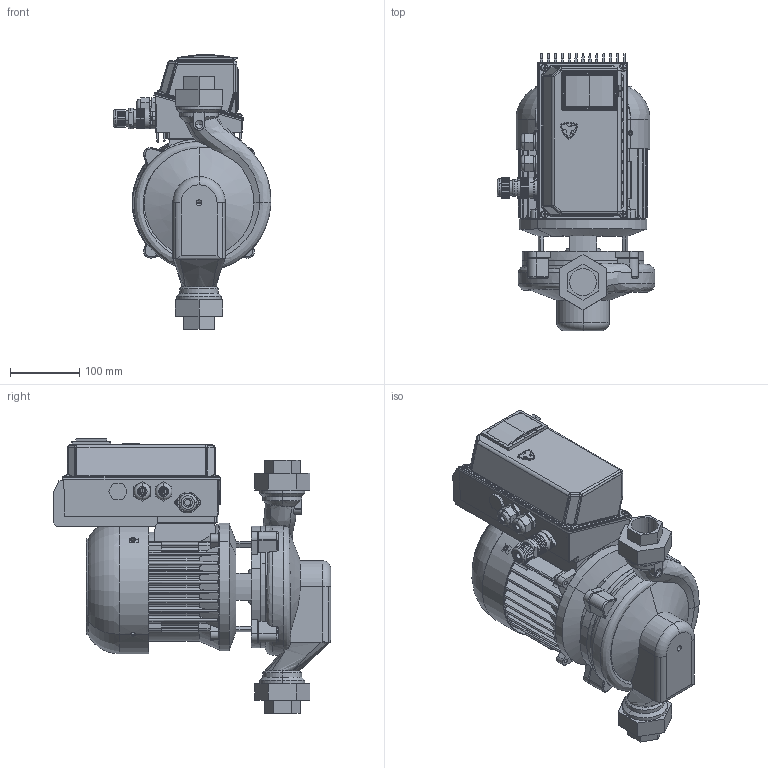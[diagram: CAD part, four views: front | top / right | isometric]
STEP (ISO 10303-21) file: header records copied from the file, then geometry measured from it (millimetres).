
FILE_DESCRIPTION(('STEP AP214'),'1');
FILE_NAME('export.stp','2018-05-31T11:14:37',(' '),(' '),'Spatial InterOp 3D',' ',' ');
FILE_SCHEMA(('AUTOMOTIVE_DESIGN { 1 0 10303 214 1 1 1 1 }'));
Length unit declared in the file: millimetre
Products named in the file (37): W_AE334370_SC_KH; V_TLAEAP3233L40A; V_PPAE33; V_EKN13OKN101; KHSC100B2F19; G34046; G23619; G23630; G43699; DIN_EN_24017-M6x25; G23888; KH100_SC; P100518; P100576; P100453; P100467; DIN_7985-M5x12; P100515; P100512; P100513; P100514; P100509; ontto_sylinteri; DIN_7985-M3x12; P100569; P100567; P100566; P100565; P100606; P100607; P100580; P101504; P101332; PART3; PART4
Assembly tree (44 placements, depth 5):
  W_AE334370_SC_KH
    V_TLAEAP3233L40A
    V_PPAE33
    V_EKN13OKN101
    KH100_SC
      KHSC100B2F19
        G34046
        G23619
        G23630
        G43699
        DIN_EN_24017-M6x25  x4
        G23888
      P100518
        P100576
        P100453
        P100467
        DIN_7985-M5x12  x4
        P100515
          P100512
          P100513
          P100514
          P100509
          ontto_sylinteri
        DIN_7985-M3x12  x2
        P100569
        P100567
          P100566
          P100565
          ontto_sylinteri
        P100606
          P100607
          P100565
          ontto_sylinteri
        P100580
        P101504
        P101332
          PART3
          PART4
Bounding box: 228.34 x 401.08 x 397.34 mm (x, y, z)
Volume: 3502425.7 mm3; surface area: 1188534.7 mm2
Topology: 35 solids, 37 shells, 3525 faces, 9598 edges, 6213 vertices
Faces by surface type: plane 1513, cylinder 1403, torus 251, cone 195, sphere 90, bspline 73
Full cylindrical faces by diameter (mm): 4 x4, 5 x6, 6 x4, 146.5 x1, 147 x1, 152 x1, 157.98 x1, 178 x1, 182 x1
Entity records: 162741 total; most frequent: CARTESIAN_POINT 31165, DIRECTION 18702, ORIENTED_EDGE 18346, EDGE_CURVE 9180, AXIS2_PLACEMENT_3D 7101, STYLED_ITEM 6700, PRESENTATION_STYLE_ASSIGNMENT 6700, COLOUR_RGB 6700
